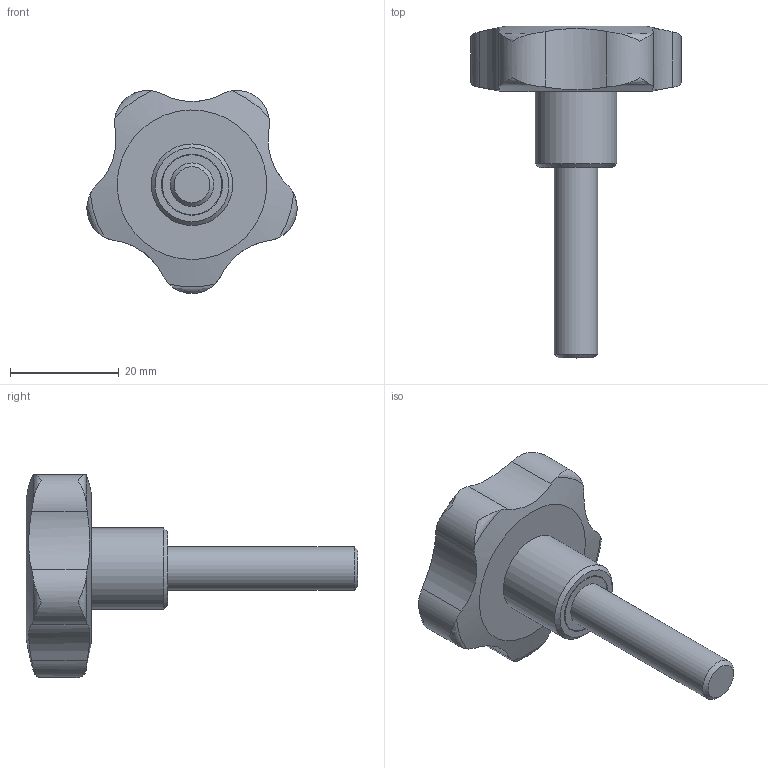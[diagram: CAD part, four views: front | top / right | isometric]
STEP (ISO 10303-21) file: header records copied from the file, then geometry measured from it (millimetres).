
FILE_DESCRIPTION( ( 'STEP AP203' ), '1' );
FILE_NAME( 'C:/Temp/Ganter_Step_05_03_2020/data/2_2/gn_5337_4/gn_5337_4_s/Star knob GN 5337.4-40-M8-35.stp', '2020-03-05T12:09:46', ( 'License CC BY-ND 4.0' ), ( 'CADENAS' ), ' ', 'PARTsolutions', ' ' );
FILE_SCHEMA( ( 'CONFIG_CONTROL_DESIGN' ) );
Length unit declared in the file: millimetre
Products named in the file (1): _Star knob GN 5337.4-40-M8-35
Bounding box: 38.62 x 61 x 37.33 mm (x, y, z)
Volume: 15231.7 mm3; surface area: 4731 mm2
Topology: 1 solids, 1 shells, 34 faces, 95 edges, 66 vertices
Faces by surface type: cylinder 14, torus 10, plane 5, cone 3, bspline 1, sphere 1
Full cylindrical faces by diameter (mm): 8 x1, 11 x1, 11.2 x1, 15 x1
Entity records: 1467 total; most frequent: CARTESIAN_POINT 679, ORIENTED_EDGE 164, DIRECTION 122, EDGE_CURVE 82, VERTEX_POINT 63, AXIS2_PLACEMENT_3D 56, B_SPLINE_CURVE_WITH_KNOTS 50, EDGE_LOOP 46
